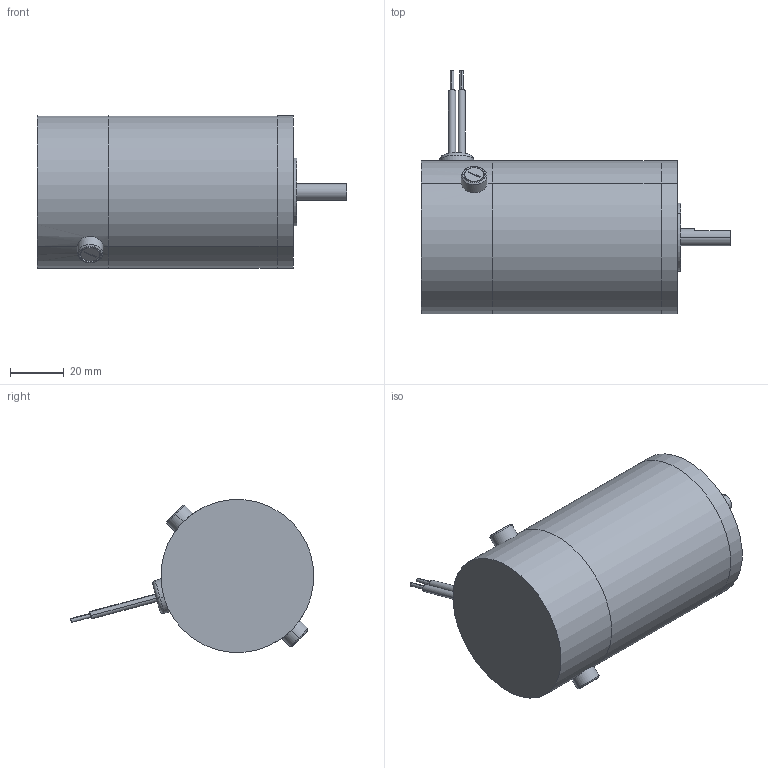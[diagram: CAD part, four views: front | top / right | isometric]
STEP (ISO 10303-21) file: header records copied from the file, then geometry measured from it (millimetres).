
FILE_DESCRIPTION (( 'STEP AP203' ), '1' );
FILE_NAME ('d22376.step', '2018-12-07T18:46:05', ( '' ), ( '' ), 'SwSTEP 2.0', 'SolidWorks 2017', '' );
FILE_SCHEMA (( 'CONFIG_CONTROL_DESIGN' ));
Length unit declared in the file: inch
Products named in the file (1): d22376
Bounding box: 115.62 x 90.76 x 56.93 mm (x, y, z)
Volume: 247041.5 mm3; surface area: 35571.6 mm2
Topology: 7 solids, 7 shells, 157 faces, 337 edges, 206 vertices
Faces by surface type: plane 66, cylinder 62, cone 19, torus 6, sphere 4
Entity records: 4491 total; most frequent: CARTESIAN_POINT 895, DIRECTION 816, ORIENTED_EDGE 658, AXIS2_PLACEMENT_3D 337, EDGE_CURVE 329, VERTEX_POINT 206, EDGE_LOOP 185, CIRCLE 179
